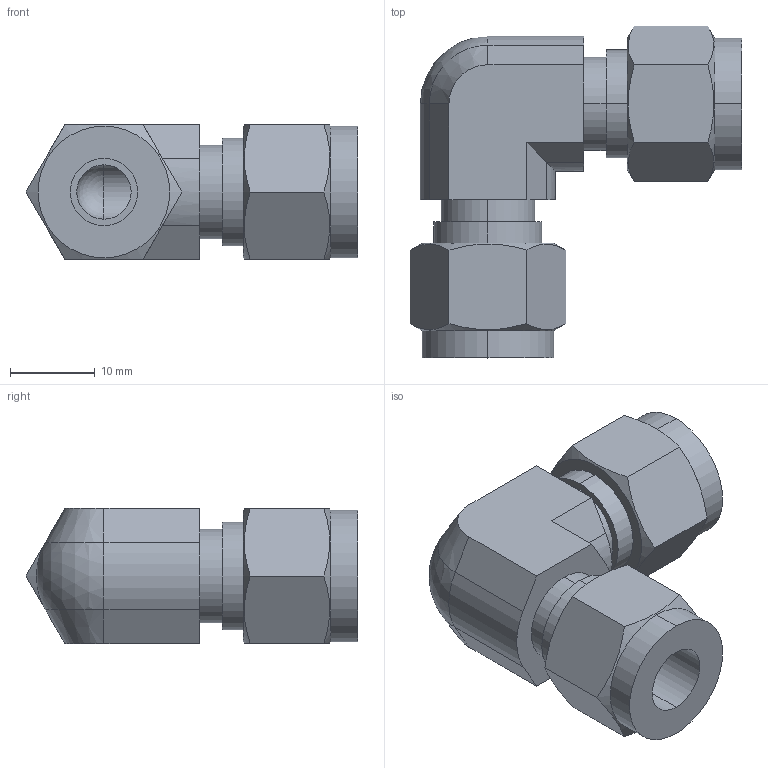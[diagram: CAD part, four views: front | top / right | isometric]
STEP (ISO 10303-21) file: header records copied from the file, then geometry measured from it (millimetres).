
FILE_DESCRIPTION (( 'STEP AP203' ), '1' );
FILE_NAME ('DLA05 SS.STEP', '2009-10-26T06:02:25', ( ' ' ), ( '' ), 'SwSTEP 2.0', 'SolidWorks 2008', '' );
FILE_SCHEMA (( 'CONFIG_CONTROL_DESIGN' ));
Length unit declared in the file: millimetre
Products named in the file (1): DLA05 SS
Bounding box: 39.07 x 39.07 x 15.9 mm (x, y, z)
Volume: 8968.5 mm3; surface area: 5116.3 mm2
Topology: 1 solids, 1 shells, 68 faces, 164 edges, 104 vertices
Faces by surface type: plane 32, cylinder 24, cone 10, sphere 2
Entity records: 2217 total; most frequent: CARTESIAN_POINT 593, ORIENTED_EDGE 320, DIRECTION 316, EDGE_CURVE 160, AXIS2_PLACEMENT_3D 121, VERTEX_POINT 102, EDGE_LOOP 78, VECTOR 74
